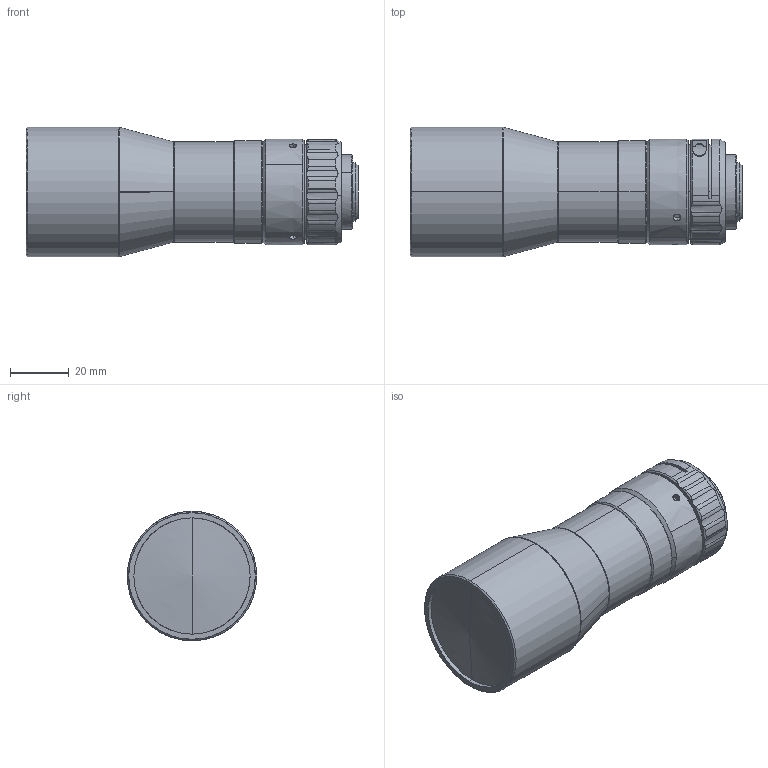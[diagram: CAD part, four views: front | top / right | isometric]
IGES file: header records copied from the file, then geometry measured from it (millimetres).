
Start section: SolidWorks IGES file using analytic representation for surfaces
Global section: file name: D:\----      产品2016.1.20\DTC\DTCM\F+B\－－ AL   可调后截距\26  -C不用可调\DTCM120-26-AL\3D\DTCM120-26-AL.IGS; native system: SolidWorks 2012; preprocessor: SolidWorks 2012; author: frank; date: 180621.134135; units: millimetre
Bounding box: 112.84 x 44 x 44 mm (x, y, z)
Surface area: 16982.1 mm2 (no closed solid volume)
Topology: 0 solids, 0 shells, 129 faces, 2141 edges, 2135 vertices
Faces by surface type: revolution 106, bspline 23
